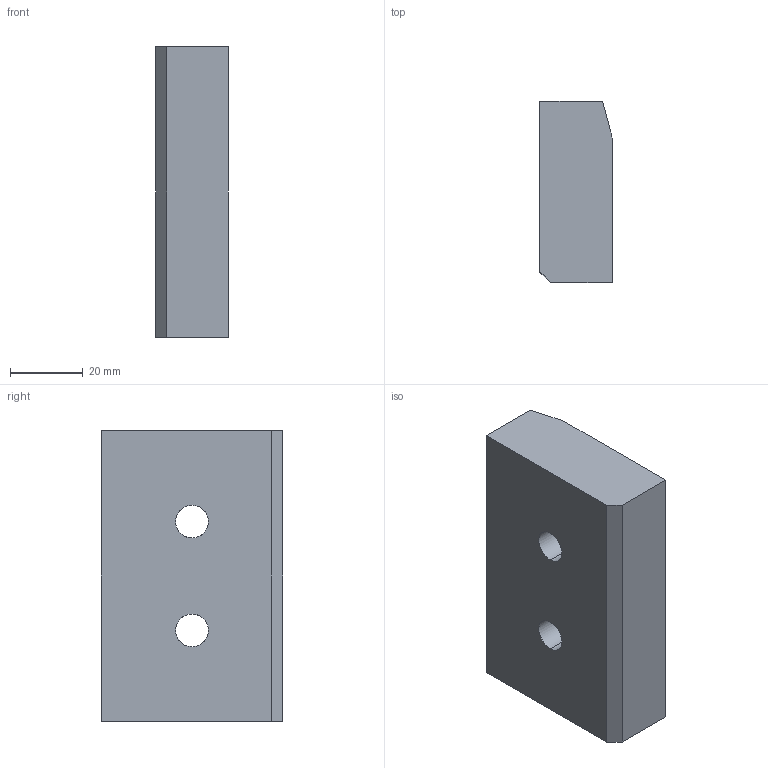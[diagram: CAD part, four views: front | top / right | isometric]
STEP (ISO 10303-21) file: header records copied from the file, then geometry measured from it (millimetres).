
FILE_DESCRIPTION(('CATIA V5 STEP Exchange'),'2;1');
FILE_NAME('C:\Users\borellobunino\Desktop\3D X SITO CF\A915\GSB_OILLESS_G22501080050\A915-80X50.stp','2019-07-14T12:44:25+00:00',('none'),('none'),'CATIA Version 5 Release 20 GA (IN-10)','CATIA V5 STEP AP203','none');
FILE_SCHEMA(('CONFIG_CONTROL_DESIGN'));
Length unit declared in the file: millimetre
Products named in the file (1): A915-80X50
Bounding box: 20 x 50 x 80 mm (x, y, z)
Volume: 73788 mm3; surface area: 13939.3 mm2
Topology: 1 solids, 1 shells, 23 faces, 73 edges, 54 vertices
Faces by surface type: plane 10, cylinder 9, torus 4
Entity records: 1045 total; most frequent: CARTESIAN_POINT 363, ORIENTED_EDGE 146, DIRECTION 103, EDGE_CURVE 73, AXIS2_PLACEMENT_3D 54, VERTEX_POINT 54, CIRCLE 30, EDGE_LOOP 29
